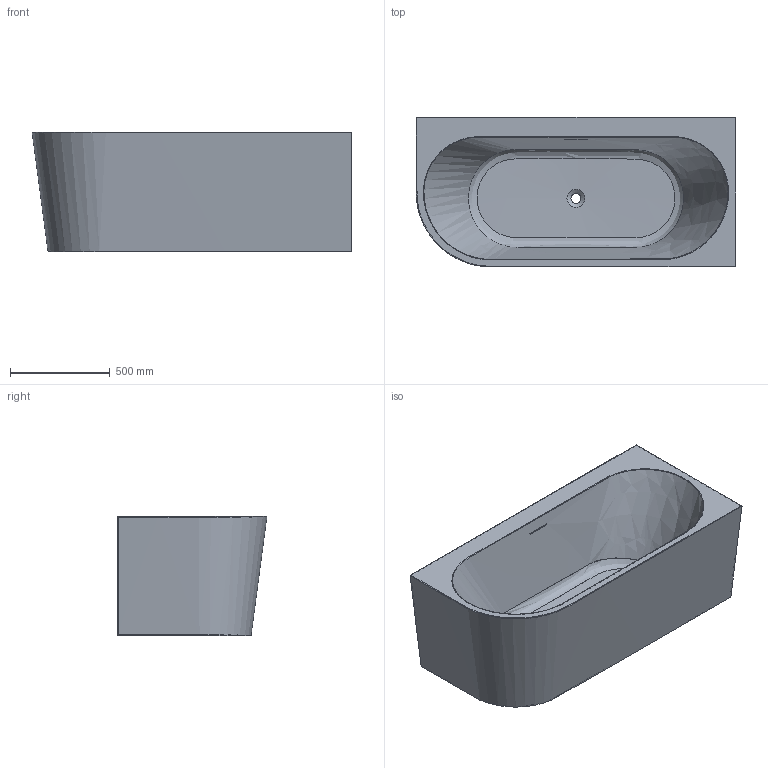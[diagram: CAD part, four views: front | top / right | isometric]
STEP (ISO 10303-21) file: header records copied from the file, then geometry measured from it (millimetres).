
FILE_DESCRIPTION(/* description */ (''),/* implementation_level */ '2;1');
FILE_NAME(/* name */ 'XA-193AL-1600.stp',/* time_stamp */ '2022-11-30T10:55:59+08:00',/* author */ (''),/* organization */ (''),/* preprocessor_version */ 'ST-DEVELOPER v16',/* originating_system */ 'SIEMENS PLM Software NX 10.0',/* authorisation */ '');
FILE_SCHEMA (('AP203_CONFIGURATION_CONTROLLED_3D_DESIGN_OF_MECHANICAL_PARTS_AND_ASSEMBLIES_MIM_LF { 1 0 10303 403 2 1 2}'));
Length unit declared in the file: millimetre
Products named in the file (1): Admi11DC8F1053r9
Bounding box: 1599.57 x 749.57 x 600 mm (x, y, z)
Volume: 24480846.5 mm3; surface area: 9919466.6 mm2
Topology: 1 solids, 1 shells, 32 faces, 78 edges, 51 vertices
Faces by surface type: plane 13, bspline 9, cylinder 6, cone 4
Full cylindrical faces by diameter (mm): 50 x1, 60 x1
Entity records: 5818 total; most frequent: CARTESIAN_POINT 5129, ORIENTED_EDGE 120, DIRECTION 91, EDGE_CURVE 60, EDGE_LOOP 50, VERTEX_POINT 44, FACE_BOUND 34, AXIS2_PLACEMENT_3D 33
